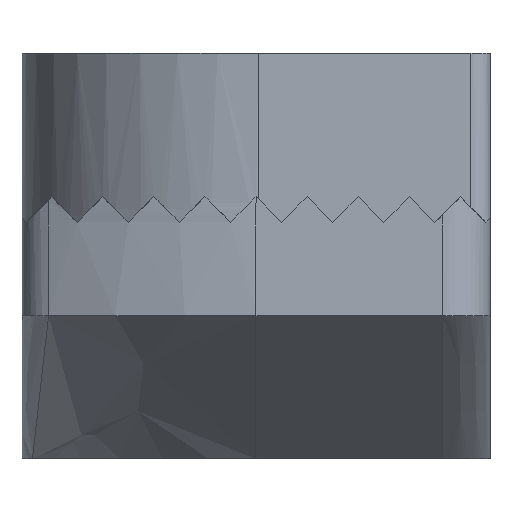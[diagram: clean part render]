
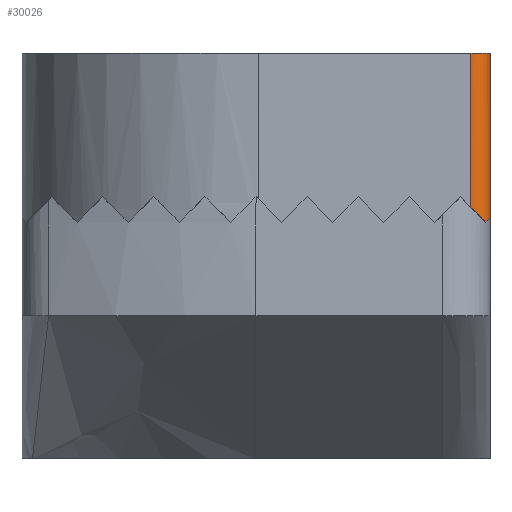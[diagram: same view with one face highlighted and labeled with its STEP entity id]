
A CAD part, left-side view. The second image highlights one B-rep face of the part: STEP entity #30026.
In plain terms, the highlighted cylindrical face has radius 0.4 mm (diameter 0.8 mm), a partial arc.
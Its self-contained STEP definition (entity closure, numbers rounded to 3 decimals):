
#5219 = PLANE('',#5220);
#5220 = AXIS2_PLACEMENT_3D('',#5221,#5222,#5223);
#5221 = CARTESIAN_POINT('',(0.,-0.05,5.5));
#5222 = DIRECTION('',(0.,0.,1.));
#5223 = DIRECTION('',(1.,0.,-0.));
#30026 = ADVANCED_FACE('',(#30027),#30042,.T.);
#30027 = FACE_BOUND('',#30028,.T.);
#30028 = EDGE_LOOP('',(#30029,#30060,#30088,#30139,#30190));
#30029 = ORIENTED_EDGE('',*,*,#30030,.F.);
#30030 = EDGE_CURVE('',#30031,#30033,#30035,.T.);
#30031 = VERTEX_POINT('',#30032);
#30032 = CARTESIAN_POINT('',(-4.95,-4.5,5.5));
#30033 = VERTEX_POINT('',#30034);
#30034 = CARTESIAN_POINT('',(-4.55,-4.9,5.5));
#30035 = SURFACE_CURVE('',#30036,(#30041,#30053),.PCURVE_S1.);
#30036 = CIRCLE('',#30037,0.4);
#30037 = AXIS2_PLACEMENT_3D('',#30038,#30039,#30040);
#30038 = CARTESIAN_POINT('',(-4.55,-4.5,5.5));
#30039 = DIRECTION('',(0.,0.,1.));
#30040 = DIRECTION('',(1.,0.,-0.));
#30041 = PCURVE('',#30042,#30047);
#30042 = CYLINDRICAL_SURFACE('',#30043,0.4);
#30043 = AXIS2_PLACEMENT_3D('',#30044,#30045,#30046);
#30044 = CARTESIAN_POINT('',(-4.55,-4.5,0.));
#30045 = DIRECTION('',(-0.,0.,1.));
#30046 = DIRECTION('',(0.,1.,0.));
#30047 = DEFINITIONAL_REPRESENTATION('',(#30048),#30052);
#30048 = LINE('',#30049,#30050);
#30049 = CARTESIAN_POINT('',(-1.571,5.5));
#30050 = VECTOR('',#30051,1.);
#30051 = DIRECTION('',(1.,0.));
#30052 = ( GEOMETRIC_REPRESENTATION_CONTEXT(2) 
PARAMETRIC_REPRESENTATION_CONTEXT() REPRESENTATION_CONTEXT('2D SPACE',''
  ) );
#30053 = PCURVE('',#5219,#30054);
#30054 = DEFINITIONAL_REPRESENTATION('',(#30055),#30059);
#30055 = CIRCLE('',#30056,0.4);
#30056 = AXIS2_PLACEMENT_2D('',#30057,#30058);
#30057 = CARTESIAN_POINT('',(-4.55,-4.45));
#30058 = DIRECTION('',(1.,0.));
#30059 = ( GEOMETRIC_REPRESENTATION_CONTEXT(2) 
PARAMETRIC_REPRESENTATION_CONTEXT() REPRESENTATION_CONTEXT('2D SPACE',''
  ) );
#30060 = ORIENTED_EDGE('',*,*,#30061,.F.);
#30061 = EDGE_CURVE('',#30062,#30031,#30064,.T.);
#30062 = VERTEX_POINT('',#30063);
#30063 = CARTESIAN_POINT('',(-4.95,-4.5,2.27));
#30064 = SURFACE_CURVE('',#30065,(#30069,#30076),.PCURVE_S1.);
#30065 = LINE('',#30066,#30067);
#30066 = CARTESIAN_POINT('',(-4.95,-4.5,5.5));
#30067 = VECTOR('',#30068,1.);
#30068 = DIRECTION('',(0.,0.,1.));
#30069 = PCURVE('',#30042,#30070);
#30070 = DEFINITIONAL_REPRESENTATION('',(#30071),#30075);
#30071 = LINE('',#30072,#30073);
#30072 = CARTESIAN_POINT('',(1.571,5.5));
#30073 = VECTOR('',#30074,1.);
#30074 = DIRECTION('',(0.,1.));
#30075 = ( GEOMETRIC_REPRESENTATION_CONTEXT(2) 
PARAMETRIC_REPRESENTATION_CONTEXT() REPRESENTATION_CONTEXT('2D SPACE',''
  ) );
#30076 = PCURVE('',#30077,#30082);
#30077 = PLANE('',#30078);
#30078 = AXIS2_PLACEMENT_3D('',#30079,#30080,#30081);
#30079 = CARTESIAN_POINT('',(-4.95,-0.05,5.5));
#30080 = DIRECTION('',(1.,0.,0.));
#30081 = DIRECTION('',(-0.,1.,0.));
#30082 = DEFINITIONAL_REPRESENTATION('',(#30083),#30087);
#30083 = LINE('',#30084,#30085);
#30084 = CARTESIAN_POINT('',(-4.45,0.));
#30085 = VECTOR('',#30086,1.);
#30086 = DIRECTION('',(0.,1.));
#30087 = ( GEOMETRIC_REPRESENTATION_CONTEXT(2) 
PARAMETRIC_REPRESENTATION_CONTEXT() REPRESENTATION_CONTEXT('2D SPACE',''
  ) );
#30088 = ORIENTED_EDGE('',*,*,#30089,.T.);
#30089 = EDGE_CURVE('',#30062,#30090,#30092,.T.);
#30090 = VERTEX_POINT('',#30091);
#30091 = CARTESIAN_POINT('',(-4.797,-4.815,1.955));
#30092 = SURFACE_CURVE('',#30093,(#30098,#30127),.PCURVE_S1.);
#30093 = ELLIPSE('',#30094,0.566,0.4);
#30094 = AXIS2_PLACEMENT_3D('',#30095,#30096,#30097);
#30095 = CARTESIAN_POINT('',(-4.55,-4.5,2.27));
#30096 = DIRECTION('',(0.,-0.707,0.707));
#30097 = DIRECTION('',(0.,-0.707,-0.707));
#30098 = PCURVE('',#30042,#30099);
#30099 = DEFINITIONAL_REPRESENTATION('',(#30100),#30126);
#30100 = B_SPLINE_CURVE_WITH_KNOTS('',3,(#30101,#30102,#30103,#30104,
    #30105,#30106,#30107,#30108,#30109,#30110,#30111,#30112,#30113,
    #30114,#30115,#30116,#30117,#30118,#30119,#30120,#30121,#30122,
    #30123,#30124,#30125),.UNSPECIFIED.,.F.,.F.,(4,1,1,1,1,1,1,1,1,1,1,1
    ,1,1,1,1,1,1,1,1,1,1,4),(4.712,4.754,
    4.795,4.836,4.877,4.918,
    4.96,5.001,5.042,5.083,
    5.125,5.166,5.207,5.248,
    5.289,5.331,5.372,5.413,
    5.454,5.495,5.537,5.578,
    5.619),.QUASI_UNIFORM_KNOTS.);
#30101 = CARTESIAN_POINT('',(1.571,2.27));
#30102 = CARTESIAN_POINT('',(1.585,2.265));
#30103 = CARTESIAN_POINT('',(1.612,2.254));
#30104 = CARTESIAN_POINT('',(1.653,2.237));
#30105 = CARTESIAN_POINT('',(1.694,2.221));
#30106 = CARTESIAN_POINT('',(1.736,2.204));
#30107 = CARTESIAN_POINT('',(1.777,2.188));
#30108 = CARTESIAN_POINT('',(1.818,2.172));
#30109 = CARTESIAN_POINT('',(1.859,2.156));
#30110 = CARTESIAN_POINT('',(1.901,2.14));
#30111 = CARTESIAN_POINT('',(1.942,2.125));
#30112 = CARTESIAN_POINT('',(1.983,2.11));
#30113 = CARTESIAN_POINT('',(2.024,2.095));
#30114 = CARTESIAN_POINT('',(2.065,2.08));
#30115 = CARTESIAN_POINT('',(2.107,2.066));
#30116 = CARTESIAN_POINT('',(2.148,2.052));
#30117 = CARTESIAN_POINT('',(2.189,2.038));
#30118 = CARTESIAN_POINT('',(2.23,2.025));
#30119 = CARTESIAN_POINT('',(2.271,2.012));
#30120 = CARTESIAN_POINT('',(2.313,2.));
#30121 = CARTESIAN_POINT('',(2.354,1.988));
#30122 = CARTESIAN_POINT('',(2.395,1.976));
#30123 = CARTESIAN_POINT('',(2.436,1.965));
#30124 = CARTESIAN_POINT('',(2.464,1.958));
#30125 = CARTESIAN_POINT('',(2.478,1.955));
#30126 = ( GEOMETRIC_REPRESENTATION_CONTEXT(2) 
PARAMETRIC_REPRESENTATION_CONTEXT() REPRESENTATION_CONTEXT('2D SPACE',''
  ) );
#30127 = PCURVE('',#30128,#30133);
#30128 = PLANE('',#30129);
#30129 = AXIS2_PLACEMENT_3D('',#30130,#30131,#30132);
#30130 = CARTESIAN_POINT('',(22.614,-4.28,2.49));
#30131 = DIRECTION('',(0.,-0.707,0.707));
#30132 = DIRECTION('',(-1.,0.,0.));
#30133 = DEFINITIONAL_REPRESENTATION('',(#30134),#30138);
#30134 = ELLIPSE('',#30135,0.566,0.4);
#30135 = AXIS2_PLACEMENT_2D('',#30136,#30137);
#30136 = CARTESIAN_POINT('',(27.164,0.311));
#30137 = DIRECTION('',(-0.,1.));
#30138 = ( GEOMETRIC_REPRESENTATION_CONTEXT(2) 
PARAMETRIC_REPRESENTATION_CONTEXT() REPRESENTATION_CONTEXT('2D SPACE',''
  ) );
#30139 = ORIENTED_EDGE('',*,*,#30140,.T.);
#30140 = EDGE_CURVE('',#30090,#30141,#30143,.T.);
#30141 = VERTEX_POINT('',#30142);
#30142 = CARTESIAN_POINT('',(-4.55,-4.9,2.04));
#30143 = SURFACE_CURVE('',#30144,(#30149,#30178),.PCURVE_S1.);
#30144 = ELLIPSE('',#30145,0.566,0.4);
#30145 = AXIS2_PLACEMENT_3D('',#30146,#30147,#30148);
#30146 = CARTESIAN_POINT('',(-4.55,-4.5,1.64));
#30147 = DIRECTION('',(0.,0.707,0.707));
#30148 = DIRECTION('',(0.,0.707,-0.707));
#30149 = PCURVE('',#30042,#30150);
#30150 = DEFINITIONAL_REPRESENTATION('',(#30151),#30177);
#30151 = B_SPLINE_CURVE_WITH_KNOTS('',3,(#30152,#30153,#30154,#30155,
    #30156,#30157,#30158,#30159,#30160,#30161,#30162,#30163,#30164,
    #30165,#30166,#30167,#30168,#30169,#30170,#30171,#30172,#30173,
    #30174,#30175,#30176),.UNSPECIFIED.,.F.,.F.,(4,1,1,1,1,1,1,1,1,1,1,1
    ,1,1,1,1,1,1,1,1,1,1,4),(2.478,2.508,
    2.538,2.568,2.598,2.628,
    2.659,2.689,2.719,2.749,
    2.779,2.81,2.84,2.87,
    2.9,2.93,2.96,2.991,
    3.021,3.051,3.081,3.111,
    3.142),.QUASI_UNIFORM_KNOTS.);
#30152 = CARTESIAN_POINT('',(2.478,1.955));
#30153 = CARTESIAN_POINT('',(2.488,1.957));
#30154 = CARTESIAN_POINT('',(2.508,1.962));
#30155 = CARTESIAN_POINT('',(2.538,1.969));
#30156 = CARTESIAN_POINT('',(2.568,1.976));
#30157 = CARTESIAN_POINT('',(2.598,1.982));
#30158 = CARTESIAN_POINT('',(2.628,1.989));
#30159 = CARTESIAN_POINT('',(2.659,1.994));
#30160 = CARTESIAN_POINT('',(2.689,2.));
#30161 = CARTESIAN_POINT('',(2.719,2.005));
#30162 = CARTESIAN_POINT('',(2.749,2.01));
#30163 = CARTESIAN_POINT('',(2.779,2.014));
#30164 = CARTESIAN_POINT('',(2.81,2.018));
#30165 = CARTESIAN_POINT('',(2.84,2.022));
#30166 = CARTESIAN_POINT('',(2.87,2.025));
#30167 = CARTESIAN_POINT('',(2.9,2.028));
#30168 = CARTESIAN_POINT('',(2.93,2.031));
#30169 = CARTESIAN_POINT('',(2.96,2.034));
#30170 = CARTESIAN_POINT('',(2.991,2.036));
#30171 = CARTESIAN_POINT('',(3.021,2.037));
#30172 = CARTESIAN_POINT('',(3.051,2.038));
#30173 = CARTESIAN_POINT('',(3.081,2.039));
#30174 = CARTESIAN_POINT('',(3.111,2.04));
#30175 = CARTESIAN_POINT('',(3.132,2.04));
#30176 = CARTESIAN_POINT('',(3.142,2.04));
#30177 = ( GEOMETRIC_REPRESENTATION_CONTEXT(2) 
PARAMETRIC_REPRESENTATION_CONTEXT() REPRESENTATION_CONTEXT('2D SPACE',''
  ) );
#30178 = PCURVE('',#30179,#30184);
#30179 = PLANE('',#30180);
#30180 = AXIS2_PLACEMENT_3D('',#30181,#30182,#30183);
#30181 = CARTESIAN_POINT('',(22.614,-4.815,1.955));
#30182 = DIRECTION('',(-0.,0.707,0.707));
#30183 = DIRECTION('',(1.,0.,0.));
#30184 = DEFINITIONAL_REPRESENTATION('',(#30185),#30189);
#30185 = ELLIPSE('',#30186,0.566,0.4);
#30186 = AXIS2_PLACEMENT_2D('',#30187,#30188);
#30187 = CARTESIAN_POINT('',(-27.164,0.445));
#30188 = DIRECTION('',(0.,1.));
#30189 = ( GEOMETRIC_REPRESENTATION_CONTEXT(2) 
PARAMETRIC_REPRESENTATION_CONTEXT() REPRESENTATION_CONTEXT('2D SPACE',''
  ) );
#30190 = ORIENTED_EDGE('',*,*,#30191,.F.);
#30191 = EDGE_CURVE('',#30033,#30141,#30192,.T.);
#30192 = SURFACE_CURVE('',#30193,(#30197,#30204),.PCURVE_S1.);
#30193 = LINE('',#30194,#30195);
#30194 = CARTESIAN_POINT('',(-4.55,-4.9,2.04));
#30195 = VECTOR('',#30196,1.);
#30196 = DIRECTION('',(0.,0.,-1.));
#30197 = PCURVE('',#30042,#30198);
#30198 = DEFINITIONAL_REPRESENTATION('',(#30199),#30203);
#30199 = LINE('',#30200,#30201);
#30200 = CARTESIAN_POINT('',(3.142,2.04));
#30201 = VECTOR('',#30202,1.);
#30202 = DIRECTION('',(0.,-1.));
#30203 = ( GEOMETRIC_REPRESENTATION_CONTEXT(2) 
PARAMETRIC_REPRESENTATION_CONTEXT() REPRESENTATION_CONTEXT('2D SPACE',''
  ) );
#30204 = PCURVE('',#30205,#30210);
#30205 = PLANE('',#30206);
#30206 = AXIS2_PLACEMENT_3D('',#30207,#30208,#30209);
#30207 = CARTESIAN_POINT('',(-8.8,-4.9,0.));
#30208 = DIRECTION('',(-0.,1.,0.));
#30209 = DIRECTION('',(1.,0.,0.));
#30210 = DEFINITIONAL_REPRESENTATION('',(#30211),#30215);
#30211 = LINE('',#30212,#30213);
#30212 = CARTESIAN_POINT('',(4.25,-2.04));
#30213 = VECTOR('',#30214,1.);
#30214 = DIRECTION('',(0.,1.));
#30215 = ( GEOMETRIC_REPRESENTATION_CONTEXT(2) 
PARAMETRIC_REPRESENTATION_CONTEXT() REPRESENTATION_CONTEXT('2D SPACE',''
  ) );
